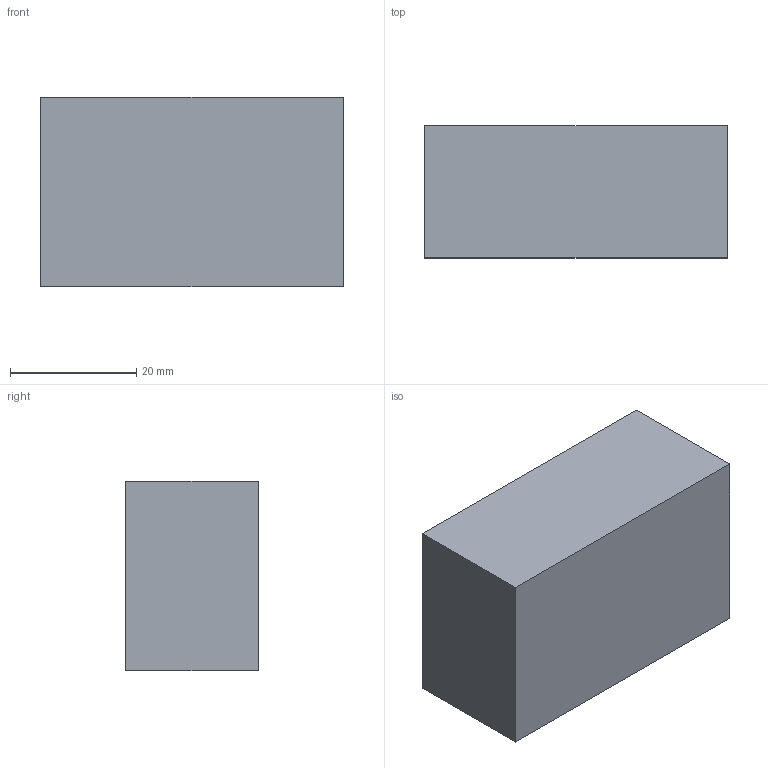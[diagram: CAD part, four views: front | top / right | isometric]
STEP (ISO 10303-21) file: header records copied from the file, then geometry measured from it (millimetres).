
FILE_DESCRIPTION(('Open CASCADE Model'),'2;1');
FILE_NAME('Open CASCADE Shape Model','2026-09-24T05:33:17',('Author'),( 'Open CASCADE'),'Open CASCADE STEP processor 7.8','Open CASCADE 7.8' ,'Unknown');
FILE_SCHEMA(('AUTOMOTIVE_DESIGN { 1 0 10303 214 1 1 1 1 }'));
Length unit declared in the file: millimetre
Products named in the file (1): Open CASCADE STEP translator 7.8 28
Bounding box: 48.05 x 20.95 x 30 mm (x, y, z)
Volume: 30199.4 mm3; surface area: 6153.3 mm2
Topology: 1 solids, 1 shells, 6 faces, 12 edges, 8 vertices
Faces by surface type: plane 6
Entity records: 322 total; most frequent: CARTESIAN_POINT 51, DIRECTION 50, LINE 36, VECTOR 36, ORIENTED_EDGE 24, PCURVE 24, DEFINITIONAL_REPRESENTATION 24, EDGE_CURVE 12
